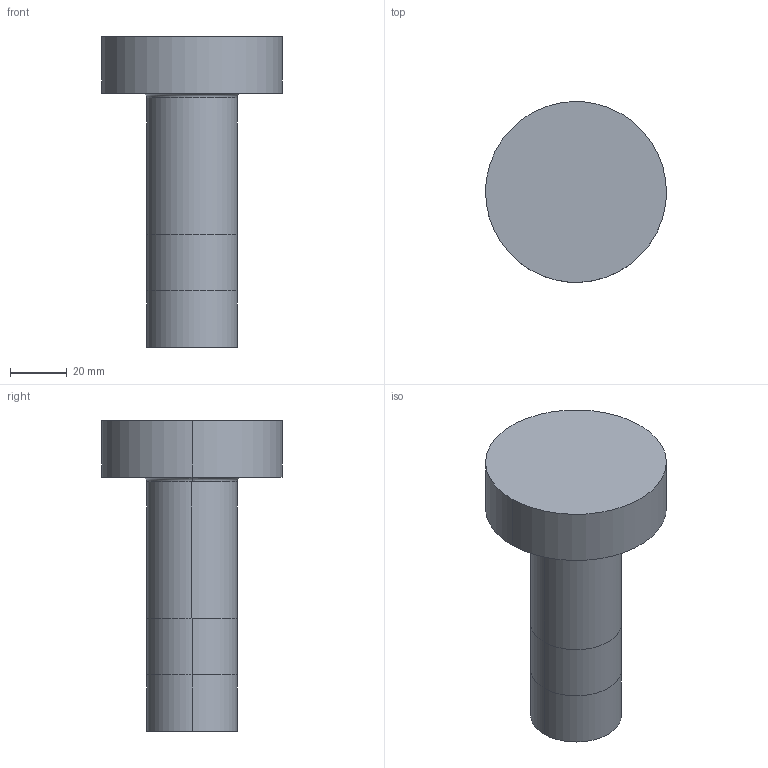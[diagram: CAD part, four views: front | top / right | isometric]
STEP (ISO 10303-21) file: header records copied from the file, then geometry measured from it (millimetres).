
FILE_DESCRIPTION(/* description */ (''),/* implementation_level */ '2;1');
FILE_NAME(/* name */ 'Bolt',/* time_stamp */ '2019-04-01T00:35:01-04:00',/* author */ (''),/* organization */ (''),/* preprocessor_version */ 'ST-DEVELOPER v15',/* originating_system */ '',/* authorisation */ '');
FILE_SCHEMA (('AUTOMOTIVE_DESIGN'));
Length unit declared in the file: millimetre
Products named in the file (1): Document
Bounding box: 64 x 63.91 x 110 mm (x, y, z)
Volume: 137061.1 mm3; surface area: 19448.1 mm2
Topology: 1 solids, 1 shells, 13 faces, 24 edges, 14 vertices
Faces by surface type: bspline 10, plane 3
Entity records: 563 total; most frequent: CARTESIAN_POINT 393, ORIENTED_EDGE 48, EDGE_CURVE 24, EDGE_LOOP 14, VERTEX_POINT 14, ADVANCED_FACE 13, FACE_OUTER_BOUND 13, DIRECTION 7
